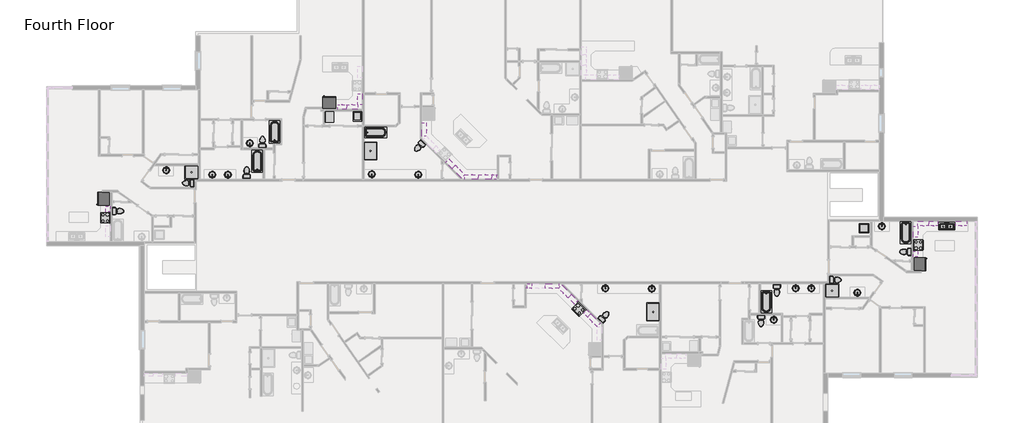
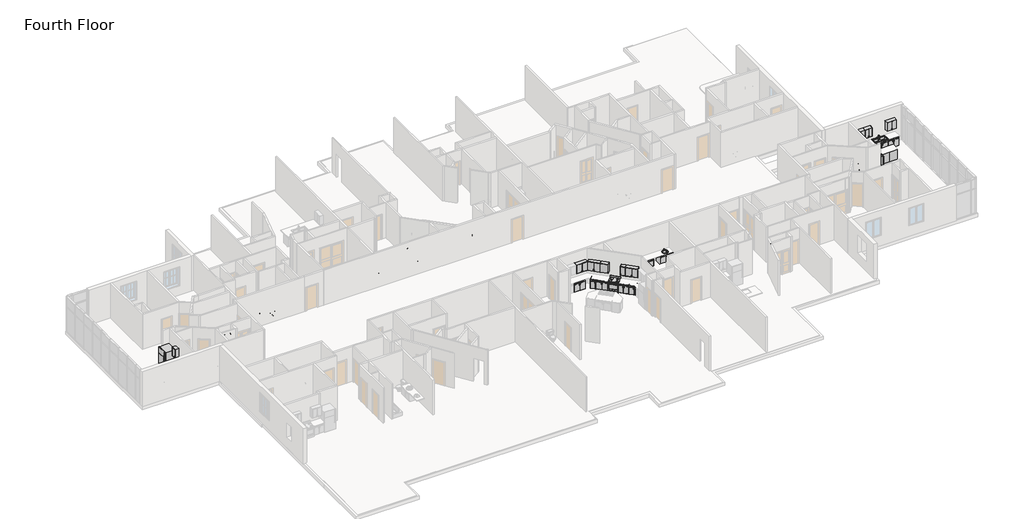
# One storey, part 15 of 17: 66 furniture elements, 33 flow terminals, 9 proxies.
"""IFC4 building model written with IfcOpenShell, lengths in millimetres."""

from ifc_helpers import new_model, si_unit, origin, place, context, project, spatial, transform, mapped, element, save
from components import proxy_6b4a07a9, proxy_fbb4c072, proxy_9109806d, proxy_718fa39f, proxy_f3e01b1d, flow_terminal_54cced83, flow_terminal_5dba0d75, flow_terminal_a53be723, flow_terminal_d49f872f, toilet_domestic_3d_toilet_domestic_3d_f7549cf7, toilet_domestic_3d_toilet_domestic_3d_183bbd19, toilet_domestic_3d_toilet_domestic_3d_a08e12bc, toilet_domestic_3d_toilet_domestic_3d_5530cc89, tub_rectangular_3d_tub_rectangular_3d_72a4d900, tub_rectangular_3d_tub_rectangular_3d_cbc2c449, furniture_0fc2bd2a, furniture_6e8794dd, furniture_07bc9410, furniture_94ff1b7c, furniture_6a014568, furniture_338da5bd, furniture_7de88fd5, furniture_695a55eb, furniture_b6fbc004, furniture_bfd559e3, base_cabinet_filler_base_cabinet_filler_2f0b3f4e, base_cabinet_filler_base_cabinet_filler_5f1ac9d6, base_cabinet_filler_base_cabinet_filler_83579e99, furniture_de2c603d, furniture_b1f16c95, furniture_c6a3367d, upper_cabinet_filler_wall_upper_cabinet_filler_wall_ebdf5134, furniture_d9efccb3, furniture_13c6450d, furniture_a47b5ef4, furniture_b880e30f, furniture_9117db5d, furniture_b34976c1, furniture_fa9c5d5b

model = new_model("IFC4")

# Units and contexts
model_context = context("Model", 3, world=origin())
ifc_project = project(units=[si_unit("LENGTHUNIT", "METRE", prefix="MILLI")], contexts=[model_context])

# Site, building, storey
site = spatial("IfcSite", under=ifc_project)
building = spatial("IfcBuilding", under=site)
storey = spatial("IfcBuildingStorey", under=building, Name="Fourth Floor", Elevation=9144.0)

# Proxies
placement = place(None, origin())
proxy_shape = proxy_6b4a07a9(model_context)
element("IfcBuildingElementProxy", 1, Name="Dryer : 30\" x 25\" x 35\"", ObjectType="Dryer : 30\" x 25\" x 35\"", at=placement, inside=storey, context=model_context, shape_type="MappedRepresentation", body=[
    mapped(proxy_shape, transform((20016.6056012, 6188.6428501, 9144.0), x_axis=(0.0, 1.0, 0.0), y_axis=(-1.0, 0.0, 0.0), z_axis=(0.0, 0.0, 1.0))),
])
proxy_2_shape = proxy_fbb4c072(model_context)
element("IfcBuildingElementProxy", 2, Name="Range : 30\" x 26\"", ObjectType="Range : 30\" x 26\"", at=placement, inside=storey, context=model_context, shape_type="MappedRepresentation", body=[
    mapped(proxy_2_shape, transform((4220.3003923, 131.5202225, 9144.0), x_axis=(0.0, -1.0, 0.0), y_axis=(1.0, 0.0, 0.0), z_axis=(0.0, 0.0, 1.0))),
])
element("IfcBuildingElementProxy", 3, Name="Range : 30\" x 26\"", ObjectType="Range : 30\" x 26\"", at=placement, inside=storey, context=model_context, shape_type="MappedRepresentation", body=[
    mapped(proxy_2_shape, transform((36146.5032482, -6394.5854043, 9144.0), x_axis=(0.7071067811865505, -0.7071067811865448, 0.0), y_axis=(0.7071067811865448, 0.7071067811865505, 0.0), z_axis=(0.0, 0.0, 1.0))),
])
element("IfcBuildingElementProxy", 4, Name="Range : 30\" x 26\"", ObjectType="Range : 30\" x 26\"", at=placement, inside=storey, context=model_context, shape_type="MappedRepresentation", body=[
    mapped(proxy_2_shape, transform((59969.853994, -2480.7028474, 9144.0), x_axis=(0.0, 1.0, 0.0), y_axis=(-1.0, 0.0, 0.0), z_axis=(0.0, 0.0, 1.0))),
])
proxy_3_shape = proxy_9109806d(model_context)
element("IfcBuildingElementProxy", 5, Name="Refrigerator : 35\" x 32\" RH", ObjectType="Refrigerator : 35\" x 32\" RH", at=placement, inside=storey, context=model_context, shape_type="MappedRepresentation", body=[
    mapped(proxy_3_shape, transform((4425.725539, 1036.2685137, 9144.0), x_axis=(0.0, -1.0, 0.0), y_axis=(1.0, 0.0, 0.0), z_axis=(0.0, 0.0, 1.0))),
])
element("IfcBuildingElementProxy", 6, Name="Refrigerator : 35\" x 32\" RH", ObjectType="Refrigerator : 35\" x 32\" RH", at=placement, inside=storey, context=model_context, shape_type="MappedRepresentation", body=[
    mapped(proxy_3_shape, transform((19720.4542781, 7559.8584529, 9144.0), x_axis=(-1.0, 0.0, 0.0), y_axis=(0.0, -1.0, 0.0), z_axis=(0.0, 0.0, 1.0))),
])
element("IfcBuildingElementProxy", 7, Name="Refrigerator : 35\" x 32\" RH", ObjectType="Refrigerator : 35\" x 32\" RH", at=placement, inside=storey, context=model_context, shape_type="MappedRepresentation", body=[
    mapped(proxy_3_shape, transform((59764.4288473, -3385.4511385, 9144.0), x_axis=(0.0, 1.0, 0.0), y_axis=(-1.0, 0.0, 0.0), z_axis=(0.0, 0.0, 1.0))),
])
proxy_4_shape = proxy_718fa39f(model_context)
element("IfcBuildingElementProxy", 8, Name="Washer : 27\" x 25\" x 35\"", ObjectType="Washer : 27\" x 25\" x 35\"", at=placement, inside=storey, context=model_context, shape_type="MappedRepresentation", body=[
    mapped(proxy_4_shape, transform((21369.2577923, 7066.4225435, 9144.0), x_axis=(0.0, -1.0, 0.0), y_axis=(1.0, 0.0, 0.0), z_axis=(0.0, 0.0, 1.0))),
])
proxy_5_shape = proxy_f3e01b1d(model_context)
element("IfcBuildingElementProxy", 9, Name="Washer_Dryer_Combo : 24\"", ObjectType="Washer_Dryer_Combo : 24\"", at=placement, inside=storey, context=model_context, shape_type="MappedRepresentation", body=[
    mapped(proxy_5_shape, transform((56408.3907443, -949.2863988, 9144.0), x_axis=(0.0, -1.0, 0.0), y_axis=(1.0, 0.0, 0.0), z_axis=(0.0, 0.0, 1.0))),
])

# Flow terminals
flow_terminal_shape = flow_terminal_54cced83(model_context)
element("IfcFlowTerminal", 10, ObjectType="Shower Base-3D : 36\" x 36\"", at=placement, inside=storey, context=model_context, shape_type="MappedRepresentation", body=[
    mapped(flow_terminal_shape, transform((10380.0467971, 2838.6124849, 9144.0), x_axis=(0.0, 1.0, 0.0), y_axis=(-1.0, 0.0, 0.0), z_axis=(0.0, 0.0, 1.0))),
])
element("IfcFlowTerminal", 11, ObjectType="Shower Base-3D : 36\" x 36\"", at=placement, inside=storey, context=model_context, shape_type="MappedRepresentation", body=[
    mapped(flow_terminal_shape, transform((53810.1075892, -5187.7951097, 9144.0), x_axis=(0.0, -1.0, 0.0), y_axis=(1.0, 0.0, 0.0), z_axis=(0.0, 0.0, 1.0))),
])
flow_terminal_2_shape = flow_terminal_5dba0d75(model_context)
element("IfcFlowTerminal", 12, ObjectType="Shower Base-3D : 48\" x 34\"", at=placement, inside=storey, context=model_context, shape_type="MappedRepresentation", body=[
    mapped(flow_terminal_2_shape, transform((22513.3830518, 4283.4091714, 9144.0), x_axis=(0.0, -1.0, 0.0), y_axis=(1.0, 0.0, 0.0), z_axis=(0.0, 0.0, 1.0))),
])
element("IfcFlowTerminal", 13, ObjectType="Shower Base-3D : 48\" x 34\"", at=placement, inside=storey, context=model_context, shape_type="MappedRepresentation", body=[
    mapped(flow_terminal_2_shape, transform((41676.7713345, -6632.5917963, 9144.0), x_axis=(0.0, 1.0, 0.0), y_axis=(-1.0, 0.0, 0.0), z_axis=(0.0, 0.0, 1.0))),
])
flow_terminal_3_shape = flow_terminal_a53be723(model_context)
element("IfcFlowTerminal", 14, ObjectType="Sink Kitchen-Double : 42\" x 21\"", at=placement, inside=storey, context=model_context, shape_type="MappedRepresentation", body=[
    mapped(flow_terminal_3_shape, transform((61579.7647534, -809.7591569, 9144.0), x_axis=(1.0, 0.0, 0.0), y_axis=(0.0, 1.0, 0.0), z_axis=(0.0, 0.0, 1.0))),
])
flow_terminal_4_shape = flow_terminal_d49f872f(model_context)
element("IfcFlowTerminal", 15, ObjectType="Sink Vanity-Round : 19\" x 19\"", at=placement, inside=storey, context=model_context, shape_type="MappedRepresentation", body=[
    mapped(flow_terminal_4_shape, transform((14429.6552962, 4892.9733129, 9144.0), x_axis=(-1.0, 0.0, 0.0), y_axis=(0.0, -1.0, 0.0), z_axis=(0.0, 0.0, 1.0))),
])
element("IfcFlowTerminal", 16, ObjectType="Sink Vanity-Round : 19\" x 19\"", at=placement, inside=storey, context=model_context, shape_type="MappedRepresentation", body=[
    mapped(flow_terminal_4_shape, transform((8560.7111773, 2889.4483435, 9144.0), x_axis=(1.0, 0.0, 0.0), y_axis=(0.0, 1.0, 0.0), z_axis=(0.0, 0.0, 1.0))),
])
element("IfcFlowTerminal", 17, ObjectType="Sink Vanity-Round : 19\" x 19\"", at=placement, inside=storey, context=model_context, shape_type="MappedRepresentation", body=[
    mapped(flow_terminal_4_shape, transform((12946.89091, 2757.2346539, 9144.0), x_axis=(-1.0, 0.0, 0.0), y_axis=(0.0, -1.0, 0.0), z_axis=(0.0, 0.0, 1.0))),
])
element("IfcFlowTerminal", 18, ObjectType="Sink Vanity-Round : 19\" x 19\"", at=placement, inside=storey, context=model_context, shape_type="MappedRepresentation", body=[
    mapped(flow_terminal_4_shape, transform((11880.09091, 2769.0116592, 9144.0), x_axis=(-1.0, 0.0, 0.0), y_axis=(0.0, -1.0, 0.0), z_axis=(0.0, 0.0, 1.0))),
])
element("IfcFlowTerminal", 19, ObjectType="Sink Vanity-Round : 19\" x 19\"", at=placement, inside=storey, context=model_context, shape_type="MappedRepresentation", body=[
    mapped(flow_terminal_4_shape, transform((25848.431225, 2766.506956, 9144.0), x_axis=(-0.9999992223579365, 0.0012471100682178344, 0.0), y_axis=(-0.0012471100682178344, -0.9999992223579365, 0.0), z_axis=(0.0, 0.0, 1.0))),
])
element("IfcFlowTerminal", 20, ObjectType="Sink Vanity-Round : 19\" x 19\"", at=placement, inside=storey, context=model_context, shape_type="MappedRepresentation", body=[
    mapped(flow_terminal_4_shape, transform((22697.558797, 2783.0261745, 9144.0), x_axis=(-0.9999968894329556, 0.002494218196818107, 0.0), y_axis=(-0.002494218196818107, -0.9999968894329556, 0.0), z_axis=(0.0, 0.0, 1.0))),
])
element("IfcFlowTerminal", 21, ObjectType="Sink Vanity-Round : 19\" x 19\"", at=placement, inside=storey, context=model_context, shape_type="MappedRepresentation", body=[
    mapped(flow_terminal_4_shape, transform((49760.4990901, -7242.1559377, 9144.0), x_axis=(1.0, 0.0, 0.0), y_axis=(0.0, 1.0, 0.0), z_axis=(0.0, 0.0, 1.0))),
])
element("IfcFlowTerminal", 22, ObjectType="Sink Vanity-Round : 19\" x 19\"", at=placement, inside=storey, context=model_context, shape_type="MappedRepresentation", body=[
    mapped(flow_terminal_4_shape, transform((57094.1764749, -902.6278973, 9144.0), x_axis=(1.0, 0.0, 0.0), y_axis=(0.0, 1.0, 0.0), z_axis=(0.0, 0.0, 1.0))),
])
element("IfcFlowTerminal", 23, ObjectType="Sink Vanity-Round : 19\" x 19\"", at=placement, inside=storey, context=model_context, shape_type="MappedRepresentation", body=[
    mapped(flow_terminal_4_shape, transform((55629.443209, -5238.6309683, 9144.0), x_axis=(-1.0, 0.0, 0.0), y_axis=(0.0, -1.0, 0.0), z_axis=(0.0, 0.0, 1.0))),
])
element("IfcFlowTerminal", 24, ObjectType="Sink Vanity-Round : 19\" x 19\"", at=placement, inside=storey, context=model_context, shape_type="MappedRepresentation", body=[
    mapped(flow_terminal_4_shape, transform((51243.2634763, -5106.4172787, 9144.0), x_axis=(1.0, 0.0, 0.0), y_axis=(0.0, 1.0, 0.0), z_axis=(0.0, 0.0, 1.0))),
])
element("IfcFlowTerminal", 25, ObjectType="Sink Vanity-Round : 19\" x 19\"", at=placement, inside=storey, context=model_context, shape_type="MappedRepresentation", body=[
    mapped(flow_terminal_4_shape, transform((52310.0634763, -5118.194284, 9144.0), x_axis=(1.0, 0.0, 0.0), y_axis=(0.0, 1.0, 0.0), z_axis=(0.0, 0.0, 1.0))),
])
element("IfcFlowTerminal", 26, ObjectType="Sink Vanity-Round : 19\" x 19\"", at=placement, inside=storey, context=model_context, shape_type="MappedRepresentation", body=[
    mapped(flow_terminal_4_shape, transform((38341.7231613, -5115.6895809, 9144.0), x_axis=(0.9999992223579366, -0.0012471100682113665, 0.0), y_axis=(0.0012471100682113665, 0.9999992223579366, 0.0), z_axis=(0.0, 0.0, 1.0))),
])
element("IfcFlowTerminal", 27, ObjectType="Sink Vanity-Round : 19\" x 19\"", at=placement, inside=storey, context=model_context, shape_type="MappedRepresentation", body=[
    mapped(flow_terminal_4_shape, transform((41492.5955893, -5132.2087994, 9144.0), x_axis=(0.9999968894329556, -0.0024942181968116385, 0.0), y_axis=(0.0024942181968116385, 0.9999968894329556, 0.0), z_axis=(0.0, 0.0, 1.0))),
])
toilet_domestic_3d_toilet_domestic_3d_shape = toilet_domestic_3d_toilet_domestic_3d_f7549cf7(model_context)
toilet_domestic_3d_toilet_domestic_3d_2_shape = toilet_domestic_3d_toilet_domestic_3d_183bbd19(model_context)
element("IfcFlowTerminal", 28, ObjectType="Toilet-Domestic-3D : Toilet-Domestic-3D", at=placement, inside=storey, context=model_context, shape_type="MappedRepresentation", body=[
    mapped(toilet_domestic_3d_toilet_domestic_3d_shape, transform((14122.4, 2916.9069921, 9144.0), x_axis=(-1.0, 0.0, 0.0), y_axis=(0.0, -1.0, 0.0), z_axis=(0.0, 0.0, 1.0))),
    mapped(toilet_domestic_3d_toilet_domestic_3d_2_shape, transform((14122.4, 2916.9069921, 9144.0), x_axis=(-1.0, 0.0, 0.0), y_axis=(0.0, -1.0, 0.0), z_axis=(0.0, 0.0, 1.0))),
])
element("IfcFlowTerminal", 29, ObjectType="Toilet-Domestic-3D : Toilet-Domestic-3D", at=placement, inside=storey, context=model_context, shape_type="MappedRepresentation", body=[
    mapped(toilet_domestic_3d_toilet_domestic_3d_shape, transform((15189.2, 4981.3051988, 9144.0), x_axis=(-1.0, 0.0, 0.0), y_axis=(0.0, -1.0, 0.0), z_axis=(0.0, 0.0, 1.0))),
    mapped(toilet_domestic_3d_toilet_domestic_3d_2_shape, transform((15189.2, 4981.3051988, 9144.0), x_axis=(-1.0, 0.0, 0.0), y_axis=(0.0, -1.0, 0.0), z_axis=(0.0, 0.0, 1.0))),
])
element("IfcFlowTerminal", 30, ObjectType="Toilet-Domestic-3D : Toilet-Domestic-3D", at=placement, inside=storey, context=model_context, shape_type="MappedRepresentation", body=[
    mapped(toilet_domestic_3d_toilet_domestic_3d_shape, transform((5489.6964197, 205.0443161, 9144.0), x_axis=(0.0, 1.0, 0.0), y_axis=(-1.0, 0.0, 0.0), z_axis=(0.0, 0.0, 1.0))),
    mapped(toilet_domestic_3d_toilet_domestic_3d_2_shape, transform((5489.6964197, 205.0443161, 9144.0), x_axis=(0.0, 1.0, 0.0), y_axis=(-1.0, 0.0, 0.0), z_axis=(0.0, 0.0, 1.0))),
])
element("IfcFlowTerminal", 31, ObjectType="Toilet-Domestic-3D : Toilet-Domestic-3D", at=placement, inside=storey, context=model_context, shape_type="MappedRepresentation", body=[
    mapped(toilet_domestic_3d_toilet_domestic_3d_shape, transform((50067.7543863, -5266.0896169, 9144.0), x_axis=(1.0, 0.0, 0.0), y_axis=(0.0, 1.0, 0.0), z_axis=(0.0, 0.0, 1.0))),
    mapped(toilet_domestic_3d_toilet_domestic_3d_2_shape, transform((50067.7543863, -5266.0896169, 9144.0), x_axis=(1.0, 0.0, 0.0), y_axis=(0.0, 1.0, 0.0), z_axis=(0.0, 0.0, 1.0))),
])
element("IfcFlowTerminal", 32, ObjectType="Toilet-Domestic-3D : Toilet-Domestic-3D", at=placement, inside=storey, context=model_context, shape_type="MappedRepresentation", body=[
    mapped(toilet_domestic_3d_toilet_domestic_3d_shape, transform((49000.9543863, -7330.4878236, 9144.0), x_axis=(1.0, 0.0, 0.0), y_axis=(0.0, 1.0, 0.0), z_axis=(0.0, 0.0, 1.0))),
    mapped(toilet_domestic_3d_toilet_domestic_3d_2_shape, transform((49000.9543863, -7330.4878236, 9144.0), x_axis=(1.0, 0.0, 0.0), y_axis=(0.0, 1.0, 0.0), z_axis=(0.0, 0.0, 1.0))),
])
element("IfcFlowTerminal", 33, ObjectType="Toilet-Domestic-3D : Toilet-Domestic-3D", at=placement, inside=storey, context=model_context, shape_type="MappedRepresentation", body=[
    mapped(toilet_domestic_3d_toilet_domestic_3d_shape, transform((58700.4579666, -2554.2269409, 9144.0), x_axis=(0.0, -1.0, 0.0), y_axis=(1.0, 0.0, 0.0), z_axis=(0.0, 0.0, 1.0))),
    mapped(toilet_domestic_3d_toilet_domestic_3d_2_shape, transform((58700.4579666, -2554.2269409, 9144.0), x_axis=(0.0, -1.0, 0.0), y_axis=(1.0, 0.0, 0.0), z_axis=(0.0, 0.0, 1.0))),
])
toilet_domestic_3d_toilet_domestic_3d_3_shape = toilet_domestic_3d_toilet_domestic_3d_a08e12bc(model_context)
toilet_domestic_3d_toilet_domestic_3d_4_shape = toilet_domestic_3d_toilet_domestic_3d_5530cc89(model_context)
element("IfcFlowTerminal", 34, ObjectType="Toilet-Domestic-3D : Toilet-Domestic-3D", at=placement, inside=storey, context=model_context, shape_type="MappedRepresentation", body=[
    mapped(toilet_domestic_3d_toilet_domestic_3d_3_shape, transform((25747.809259, 4514.7153485, 9144.0), x_axis=(-0.7196179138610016, 0.6943702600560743, 0.0), y_axis=(-0.6943702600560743, -0.7196179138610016, 0.0), z_axis=(0.0, 0.0, 1.0))),
    mapped(toilet_domestic_3d_toilet_domestic_3d_4_shape, transform((25747.809259, 4514.7153485, 9144.0), x_axis=(-0.7196179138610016, 0.6943702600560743, 0.0), y_axis=(-0.6943702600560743, -0.7196179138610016, 0.0), z_axis=(0.0, 0.0, 1.0))),
])
element("IfcFlowTerminal", 35, ObjectType="Toilet-Domestic-3D : Toilet-Domestic-3D", at=placement, inside=storey, context=model_context, shape_type="MappedRepresentation", body=[
    mapped(toilet_domestic_3d_toilet_domestic_3d_3_shape, transform((10058.4, 2108.2, 9144.0), x_axis=(-0.0047058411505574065, 0.9999889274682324, 0.0), y_axis=(-0.9999889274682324, -0.0047058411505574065, 0.0), z_axis=(0.0, 0.0, 1.0))),
    mapped(toilet_domestic_3d_toilet_domestic_3d_4_shape, transform((10058.4, 2108.2, 9144.0), x_axis=(-0.0047058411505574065, 0.9999889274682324, 0.0), y_axis=(-0.9999889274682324, -0.0047058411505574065, 0.0), z_axis=(0.0, 0.0, 1.0))),
])
element("IfcFlowTerminal", 36, ObjectType="Toilet-Domestic-3D : Toilet-Domestic-3D", at=placement, inside=storey, context=model_context, shape_type="MappedRepresentation", body=[
    mapped(toilet_domestic_3d_toilet_domestic_3d_3_shape, transform((38442.3451273, -6863.8979733, 9144.0), x_axis=(0.719617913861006, -0.6943702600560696, 0.0), y_axis=(0.6943702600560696, 0.719617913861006, 0.0), z_axis=(0.0, 0.0, 1.0))),
    mapped(toilet_domestic_3d_toilet_domestic_3d_4_shape, transform((38442.3451273, -6863.8979733, 9144.0), x_axis=(0.719617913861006, -0.6943702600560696, 0.0), y_axis=(0.6943702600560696, 0.719617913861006, 0.0), z_axis=(0.0, 0.0, 1.0))),
])
element("IfcFlowTerminal", 37, ObjectType="Toilet-Domestic-3D : Toilet-Domestic-3D", at=placement, inside=storey, context=model_context, shape_type="MappedRepresentation", body=[
    mapped(toilet_domestic_3d_toilet_domestic_3d_3_shape, transform((54131.7543863, -4457.3826248, 9144.0), x_axis=(0.004705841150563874, -0.9999889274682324, 0.0), y_axis=(0.9999889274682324, 0.004705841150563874, 0.0), z_axis=(0.0, 0.0, 1.0))),
    mapped(toilet_domestic_3d_toilet_domestic_3d_4_shape, transform((54131.7543863, -4457.3826248, 9144.0), x_axis=(0.004705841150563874, -0.9999889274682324, 0.0), y_axis=(0.9999889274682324, 0.004705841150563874, 0.0), z_axis=(0.0, 0.0, 1.0))),
])
tub_rectangular_3d_tub_rectangular_3d_shape = tub_rectangular_3d_tub_rectangular_3d_72a4d900(model_context)
element("IfcFlowTerminal", 38, ObjectType="Tub-Rectangular-3D : Tub-Rectangular-3D", at=placement, inside=storey, context=model_context, shape_type="MappedRepresentation", body=[
    mapped(tub_rectangular_3d_tub_rectangular_3d_shape, transform((15278.2993195, 3946.2121401, 9144.0), x_axis=(0.0, 1.0, 0.0), y_axis=(-1.0, 0.0, 0.0), z_axis=(0.0, 0.0, 1.0))),
])
element("IfcFlowTerminal", 39, ObjectType="Tub-Rectangular-3D : Tub-Rectangular-3D", at=placement, inside=storey, context=model_context, shape_type="MappedRepresentation", body=[
    mapped(tub_rectangular_3d_tub_rectangular_3d_shape, transform((16456.2083594, 5935.4931457, 9144.0), x_axis=(0.0, 1.0, 0.0), y_axis=(-1.0, 0.0, 0.0), z_axis=(0.0, 0.0, 1.0))),
])
element("IfcFlowTerminal", 40, ObjectType="Tub-Rectangular-3D : Tub-Rectangular-3D", at=placement, inside=storey, context=model_context, shape_type="MappedRepresentation", body=[
    mapped(tub_rectangular_3d_tub_rectangular_3d_shape, transform((48911.8550668, -6295.394765, 9144.0), x_axis=(0.0, -1.0, 0.0), y_axis=(1.0, 0.0, 0.0), z_axis=(0.0, 0.0, 1.0))),
])
tub_rectangular_3d_tub_rectangular_3d_2_shape = tub_rectangular_3d_tub_rectangular_3d_cbc2c449(model_context)
element("IfcFlowTerminal", 41, ObjectType="Tub-Rectangular-3D : Tub-Rectangular-3D", at=placement, inside=storey, context=model_context, shape_type="MappedRepresentation", body=[
    mapped(tub_rectangular_3d_tub_rectangular_3d_2_shape, transform((23209.8603258, 5986.0380642, 9144.0), x_axis=(1.0, 0.0, 0.0), y_axis=(0.0, 1.0, 0.0), z_axis=(0.0, 0.0, 1.0))),
])
element("IfcFlowTerminal", 42, ObjectType="Tub-Rectangular-3D : Tub-Rectangular-3D", at=placement, inside=storey, context=model_context, shape_type="MappedRepresentation", body=[
    mapped(tub_rectangular_3d_tub_rectangular_3d_2_shape, transform((59252.303994, -1606.8667245, 9144.0), x_axis=(0.0, -1.0, 0.0), y_axis=(1.0, 0.0, 0.0), z_axis=(0.0, 0.0, 1.0))),
])

# Furniture
furniture_shape = furniture_0fc2bd2a(model_context)
element("IfcFurniture", 43, ObjectType="Base Cabinet-Single Door & Drawer : 15\"'", at=placement, inside=storey, context=model_context, shape_type="MappedRepresentation", body=[
    mapped(furniture_shape, transform((28365.0552156, 2777.7431755, 9144.0), x_axis=(-0.7071067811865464, 0.7071067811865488, 0.0), y_axis=(-0.7071067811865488, -0.7071067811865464, 0.0), z_axis=(0.0, 0.0, 1.0))),
])
element("IfcFurniture", 44, ObjectType="Base Cabinet-Single Door & Drawer : 15\"'", at=placement, inside=storey, context=model_context, shape_type="MappedRepresentation", body=[
    mapped(furniture_shape, transform((35825.0991707, -5126.9258003, 9144.0), x_axis=(0.7071067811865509, -0.7071067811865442, 0.0), y_axis=(0.7071067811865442, 0.7071067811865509, 0.0), z_axis=(0.0, 0.0, 1.0))),
])
element("IfcFurniture", 45, ObjectType="Base Cabinet-Single Door & Drawer : 15\"'", at=placement, inside=storey, context=model_context, shape_type="MappedRepresentation", body=[
    mapped(furniture_shape, transform((37810.919328, -7127.7174378, 9144.0), x_axis=(0.7056789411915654, -0.7085317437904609, 0.0), y_axis=(0.7085317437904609, 0.7056789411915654, 0.0), z_axis=(0.0, 0.0, 1.0))),
])
furniture_2_shape = furniture_6e8794dd(model_context)
element("IfcFurniture", 46, ObjectType="Base Cabinet-Single Door & Drawer : 12\"", at=placement, inside=storey, context=model_context, shape_type="MappedRepresentation", body=[
    mapped(furniture_2_shape, transform((59309.453994, -1583.9741037, 9144.0), x_axis=(0.0, 1.0, 0.0), y_axis=(-1.0, 0.0, 0.0), z_axis=(0.0, 0.0, 1.0))),
])
furniture_3_shape = furniture_07bc9410(model_context)
element("IfcFurniture", 47, ObjectType="Base Cabinet-Single Door & Drawer : 18\"", at=placement, inside=storey, context=model_context, shape_type="MappedRepresentation", body=[
    mapped(furniture_3_shape, transform((4880.7003923, 341.3825176, 9144.0), x_axis=(0.0, 1.0, 0.0), y_axis=(-1.0, 0.0, 0.0), z_axis=(0.0, 0.0, 1.0))),
])
element("IfcFurniture", 48, ObjectType="Base Cabinet-Single Door & Drawer : 18\"", at=placement, inside=storey, context=model_context, shape_type="MappedRepresentation", body=[
    mapped(furniture_3_shape, transform((59309.453994, -2690.5651424, 9144.0), x_axis=(0.0, -1.0, 0.0), y_axis=(1.0, 0.0, 0.0), z_axis=(0.0, 0.0, 1.0))),
])
furniture_4_shape = furniture_94ff1b7c(model_context)
element("IfcFurniture", 49, ObjectType="Base Cabinet-Single Door & Drawer : 24\"", at=placement, inside=storey, context=model_context, shape_type="MappedRepresentation", body=[
    mapped(furniture_4_shape, transform((3057.9741763, 98.2194727, 9144.0), x_axis=(-1.0, 0.0, 0.0), y_axis=(0.0, -1.0, 0.0), z_axis=(0.0, 0.0, 1.0))),
])
element("IfcFurniture", 50, ObjectType="Base Cabinet-Single Door & Drawer : 24\"", at=placement, inside=storey, context=model_context, shape_type="MappedRepresentation", body=[
    mapped(furniture_4_shape, transform((61132.18021, -2447.4020975, 9144.0), x_axis=(1.0, 0.0, 0.0), y_axis=(0.0, 1.0, 0.0), z_axis=(0.0, 0.0, 1.0))),
])
furniture_5_shape = furniture_6a014568(model_context)
element("IfcFurniture", 51, ObjectType="Base Cabinet-Single Door & Drawer : 24\"", at=placement, inside=storey, context=model_context, shape_type="MappedRepresentation", body=[
    mapped(furniture_5_shape, transform((2410.8987665, 98.2194727, 9144.0), x_axis=(1.0, 0.0, 0.0), y_axis=(0.0, 1.0, 0.0), z_axis=(0.0, 0.0, 1.0))),
])
element("IfcFurniture", 52, ObjectType="Base Cabinet-Single Door & Drawer : 24\"", at=placement, inside=storey, context=model_context, shape_type="MappedRepresentation", body=[
    mapped(furniture_5_shape, transform((61779.2556198, -2447.4020975, 9144.0), x_axis=(-1.0, 0.0, 0.0), y_axis=(0.0, -1.0, 0.0), z_axis=(0.0, 0.0, 1.0))),
])
furniture_6_shape = furniture_338da5bd(model_context)
element("IfcFurniture", 53, ObjectType="Base Cabinet-Double Door & 2 Drawer : 30\"", at=placement, inside=storey, context=model_context, shape_type="MappedRepresentation", body=[
    mapped(furniture_6_shape, transform((26782.2215797, 4373.9191641, 9144.0), x_axis=(-0.7056789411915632, 0.7085317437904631, 0.0), y_axis=(-0.7085317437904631, -0.7056789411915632, 0.0), z_axis=(0.0, 0.0, 1.0))),
])
element("IfcFurniture", 54, ObjectType="Base Cabinet-Double Door & 2 Drawer : 30\"", at=placement, inside=storey, context=model_context, shape_type="MappedRepresentation", body=[
    mapped(furniture_6_shape, transform((37407.9328066, -6723.1017889, 9144.0), x_axis=(0.7056789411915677, -0.7085317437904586, 0.0), y_axis=(0.7085317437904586, 0.7056789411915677, 0.0), z_axis=(0.0, 0.0, 1.0))),
])
furniture_7_shape = furniture_7de88fd5(model_context)
element("IfcFurniture", 55, ObjectType="Base Cabinet-Double Door & 2 Drawer : 33\"", at=placement, inside=storey, context=model_context, shape_type="MappedRepresentation", body=[
    mapped(furniture_7_shape, transform((20651.145062, 7103.205075, 9144.0), x_axis=(-1.0, 0.0, 0.0), y_axis=(0.0, -1.0, 0.0), z_axis=(0.0, 0.0, 1.0))),
])
furniture_8_shape = furniture_695a55eb(model_context)
element("IfcFurniture", 56, ObjectType="Base Cabinet-Double Door & 2 Drawer : 36\"", at=placement, inside=storey, context=model_context, shape_type="MappedRepresentation", body=[
    mapped(furniture_8_shape, transform((62528.5916989, -502.6137558, 9144.0), x_axis=(-1.0, 0.0, 0.0), y_axis=(0.0, -1.0, 0.0), z_axis=(0.0, 0.0, 1.0))),
])
element("IfcFurniture", 57, ObjectType="Base Cabinet-Double Door & 2 Drawer : 36\"", at=placement, inside=storey, context=model_context, shape_type="MappedRepresentation", body=[
    mapped(furniture_8_shape, transform((61614.1916989, -502.6137558, 9144.0), x_axis=(-1.0, 0.0, 0.0), y_axis=(0.0, -1.0, 0.0), z_axis=(0.0, 0.0, 1.0))),
])
element("IfcFurniture", 58, ObjectType="Base Cabinet-Double Door & 2 Drawer : 36\"", at=placement, inside=storey, context=model_context, shape_type="MappedRepresentation", body=[
    mapped(furniture_8_shape, transform((60699.7916989, -502.6137558, 9144.0), x_axis=(-1.0, 0.0, 0.0), y_axis=(0.0, -1.0, 0.0), z_axis=(0.0, 0.0, 1.0))),
])
furniture_9_shape = furniture_b6fbc004(model_context)
element("IfcFurniture", 59, ObjectType="Base Cabinet-Double Door & 2 Drawer : 36\"", at=placement, inside=storey, context=model_context, shape_type="MappedRepresentation", body=[
    mapped(furniture_9_shape, transform((30655.8953946, 2359.3591714, 9144.0), x_axis=(-1.0, 0.0, 0.0), y_axis=(0.0, -1.0, 0.0), z_axis=(0.0, 0.0, 1.0))),
])
element("IfcFurniture", 60, ObjectType="Base Cabinet-Double Door & 2 Drawer : 36\"", at=placement, inside=storey, context=model_context, shape_type="MappedRepresentation", body=[
    mapped(furniture_9_shape, transform((29741.4953946, 2359.3591714, 9144.0), x_axis=(-1.0, 0.0, 0.0), y_axis=(0.0, -1.0, 0.0), z_axis=(0.0, 0.0, 1.0))),
])
element("IfcFurniture", 61, ObjectType="Base Cabinet-Double Door & 2 Drawer : 36\"", at=placement, inside=storey, context=model_context, shape_type="MappedRepresentation", body=[
    mapped(furniture_9_shape, transform((27907.0621534, 3235.7362377, 9144.0), x_axis=(-0.7071067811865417, 0.7071067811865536, 0.0), y_axis=(-0.7071067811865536, -0.7071067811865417, 0.0), z_axis=(0.0, 0.0, 1.0))),
])
element("IfcFurniture", 62, ObjectType="Base Cabinet-Double Door & 2 Drawer : 36\"", at=placement, inside=storey, context=model_context, shape_type="MappedRepresentation", body=[
    mapped(furniture_9_shape, transform((25998.6143708, 5897.3510915, 9144.0), x_axis=(0.0, 1.0, 0.0), y_axis=(-1.0, 0.0, 0.0), z_axis=(0.0, 0.0, 1.0))),
])
element("IfcFurniture", 63, ObjectType="Base Cabinet-Double Door & 2 Drawer : 36\"", at=placement, inside=storey, context=model_context, shape_type="MappedRepresentation", body=[
    mapped(furniture_9_shape, transform((34448.6589917, -4708.5417963, 9144.0), x_axis=(1.0, 0.0, 0.0), y_axis=(0.0, 1.0, 0.0), z_axis=(0.0, 0.0, 1.0))),
])
element("IfcFurniture", 64, ObjectType="Base Cabinet-Double Door & 2 Drawer : 36\"", at=placement, inside=storey, context=model_context, shape_type="MappedRepresentation", body=[
    mapped(furniture_9_shape, transform((36283.0922328, -5584.9188625, 9144.0), x_axis=(0.7071067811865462, -0.707106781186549, 0.0), y_axis=(0.707106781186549, 0.7071067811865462, 0.0), z_axis=(0.0, 0.0, 1.0))),
])
furniture_10_shape = furniture_bfd559e3(model_context)
element("IfcFurniture", 65, ObjectType="Base Cabinet-Corner Unit-Angled : 36\"", at=placement, inside=storey, context=model_context, shape_type="MappedRepresentation", body=[
    mapped(furniture_10_shape, transform((21965.9073571, 7629.9427799, 9144.0), x_axis=(0.0, -1.0, 0.0), y_axis=(1.0, 0.0, 0.0), z_axis=(0.0, 0.0, 1.0))),
])
element("IfcFurniture", 66, ObjectType="Base Cabinet-Corner Unit-Angled : 36\"", at=placement, inside=storey, context=model_context, shape_type="MappedRepresentation", body=[
    mapped(furniture_10_shape, transform((59309.453994, -1029.3514607, 9144.0), x_axis=(0.0, 1.0, 0.0), y_axis=(-1.0, 0.0, 0.0), z_axis=(0.0, 0.0, 1.0))),
])
base_cabinet_filler_base_cabinet_filler_shape = base_cabinet_filler_base_cabinet_filler_2f0b3f4e(model_context)
element("IfcFurniture", 67, ObjectType="Base Cabinet-Filler : Base Cabinet-Filler", at=placement, inside=storey, context=model_context, shape_type="MappedRepresentation", body=[
    mapped(base_cabinet_filler_base_cabinet_filler_shape, transform((25998.6143708, 5415.9043221, 9144.0), x_axis=(0.0, 1.0, 0.0), y_axis=(-1.0, 0.0, 0.0), z_axis=(0.0, 0.0, 1.0))),
])
element("IfcFurniture", 68, ObjectType="Base Cabinet-Filler : Base Cabinet-Filler", at=placement, inside=storey, context=model_context, shape_type="MappedRepresentation", body=[
    mapped(base_cabinet_filler_base_cabinet_filler_shape, transform((38191.5400155, -7765.086947, 9144.0), x_axis=(0.0, -1.0, 0.0), y_axis=(1.0, 0.0, 0.0), z_axis=(0.0, 0.0, 1.0))),
])
base_cabinet_filler_base_cabinet_filler_2_shape = base_cabinet_filler_base_cabinet_filler_5f1ac9d6(model_context)
element("IfcFurniture", 69, ObjectType="Base Cabinet-Filler : Base Cabinet-Filler", at=placement, inside=storey, context=model_context, shape_type="MappedRepresentation", body=[
    mapped(base_cabinet_filler_base_cabinet_filler_2_shape, transform((37971.6753186, -7289.0685883, 9144.0), x_axis=(0.7071067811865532, -0.7071067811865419, 0.0), y_axis=(0.7071067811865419, 0.7071067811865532, 0.0), z_axis=(0.0, 0.0, 1.0))),
])
base_cabinet_filler_base_cabinet_filler_3_shape = base_cabinet_filler_base_cabinet_filler_83579e99(model_context)
element("IfcFurniture", 70, ObjectType="Base Cabinet-Filler : Base Cabinet-Filler", at=placement, inside=storey, context=model_context, shape_type="MappedRepresentation", body=[
    mapped(base_cabinet_filler_base_cabinet_filler_3_shape, transform((20204.6935225, 7103.205075, 9144.0), x_axis=(-1.0, 0.0, 0.0), y_axis=(0.0, -1.0, 0.0), z_axis=(0.0, 0.0, 1.0))),
])
furniture_11_shape = furniture_de2c603d(model_context)
element("IfcFurniture", 71, ObjectType="Upper Cabinet-Double Door-Wall : 24\"", at=placement, inside=storey, context=model_context, shape_type="MappedRepresentation", body=[
    mapped(furniture_11_shape, transform((20564.5361943, 7046.055075, 9144.0), x_axis=(1.0, 0.0, 0.0), y_axis=(0.0, 1.0, 0.0), z_axis=(0.0, 0.0, 1.0))),
])
element("IfcFurniture", 72, ObjectType="Upper Cabinet-Double Door-Wall : 24\"", at=placement, inside=storey, context=model_context, shape_type="MappedRepresentation", body=[
    mapped(furniture_11_shape, transform((60710.8251568, -428.0012558, 9144.0), x_axis=(-1.0, 0.0, 0.0), y_axis=(0.0, -1.0, 0.0), z_axis=(0.0, 0.0, 1.0))),
])
furniture_12_shape = furniture_b1f16c95(model_context)
element("IfcFurniture", 73, ObjectType="Upper Cabinet-Double Door-Wall : 30\"", at=placement, inside=storey, context=model_context, shape_type="MappedRepresentation", body=[
    mapped(furniture_12_shape, transform((21250.3361943, 7046.055075, 9144.0), x_axis=(1.0, 0.0, 0.0), y_axis=(0.0, 1.0, 0.0), z_axis=(0.0, 0.0, 1.0))),
])
element("IfcFurniture", 74, ObjectType="Upper Cabinet-Double Door-Wall : 30\"", at=placement, inside=storey, context=model_context, shape_type="MappedRepresentation", body=[
    mapped(furniture_12_shape, transform((22023.0573571, 7759.2339122, 9144.0), x_axis=(0.0, 1.0, 0.0), y_axis=(-1.0, 0.0, 0.0), z_axis=(0.0, 0.0, 1.0))),
])
element("IfcFurniture", 75, ObjectType="Upper Cabinet-Double Door-Wall : 30\"", at=placement, inside=storey, context=model_context, shape_type="MappedRepresentation", body=[
    mapped(furniture_12_shape, transform((60025.0251568, -428.0012558, 9144.0), x_axis=(-1.0, 0.0, 0.0), y_axis=(0.0, -1.0, 0.0), z_axis=(0.0, 0.0, 1.0))),
])
element("IfcFurniture", 76, ObjectType="Upper Cabinet-Double Door-Wall : 30\"", at=placement, inside=storey, context=model_context, shape_type="MappedRepresentation", body=[
    mapped(furniture_12_shape, transform((59252.303994, -1158.642593, 9144.0), x_axis=(0.0, -1.0, 0.0), y_axis=(1.0, 0.0, 0.0), z_axis=(0.0, 0.0, 1.0))),
])
element("IfcFurniture", 77, ObjectType="Upper Cabinet-Double Door-Wall : 30\"", at=placement, inside=storey, context=model_context, shape_type="MappedRepresentation", body=[
    mapped(furniture_12_shape, transform((62603.3716935, -428.0012558, 9144.0), x_axis=(-1.0, 0.0, 0.0), y_axis=(0.0, -1.0, 0.0), z_axis=(0.0, 0.0, 1.0))),
])
furniture_13_shape = furniture_c6a3367d(model_context)
element("IfcFurniture", 78, ObjectType="Upper Cabinet-Double Door-Wall : 36\"", at=placement, inside=storey, context=model_context, shape_type="MappedRepresentation", body=[
    mapped(furniture_13_shape, transform((29337.1203507, 2302.2091714, 9144.0), x_axis=(1.0, 0.0, 0.0), y_axis=(0.0, 1.0, 0.0), z_axis=(0.0, 0.0, 1.0))),
])
element("IfcFurniture", 79, ObjectType="Upper Cabinet-Double Door-Wall : 36\"", at=placement, inside=storey, context=model_context, shape_type="MappedRepresentation", body=[
    mapped(furniture_13_shape, transform((28309.6002934, 2752.3757927, 9144.0), x_axis=(0.707106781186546, -0.7071067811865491, 0.0), y_axis=(0.7071067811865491, 0.707106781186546, 0.0), z_axis=(0.0, 0.0, 1.0))),
])
element("IfcFurniture", 80, ObjectType="Upper Cabinet-Double Door-Wall : 36\"", at=placement, inside=storey, context=model_context, shape_type="MappedRepresentation", body=[
    mapped(furniture_13_shape, transform((25936.35388, 5762.5179677, 9144.0), x_axis=(0.0, -1.0, 0.0), y_axis=(1.0, 0.0, 0.0), z_axis=(0.0, 0.0, 1.0))),
])
element("IfcFurniture", 81, ObjectType="Upper Cabinet-Double Door-Wall : 36\"", at=placement, inside=storey, context=model_context, shape_type="MappedRepresentation", body=[
    mapped(furniture_13_shape, transform((30251.5203507, 2302.2091714, 9144.0), x_axis=(1.0, 0.0, 0.0), y_axis=(0.0, 1.0, 0.0), z_axis=(0.0, 0.0, 1.0))),
])
element("IfcFurniture", 82, ObjectType="Upper Cabinet-Double Door-Wall : 36\"", at=placement, inside=storey, context=model_context, shape_type="MappedRepresentation", body=[
    mapped(furniture_13_shape, transform((34853.0340356, -4651.3917963, 9144.0), x_axis=(-1.0, 0.0, 0.0), y_axis=(0.0, -1.0, 0.0), z_axis=(0.0, 0.0, 1.0))),
])
element("IfcFurniture", 83, ObjectType="Upper Cabinet-Double Door-Wall : 36\"", at=placement, inside=storey, context=model_context, shape_type="MappedRepresentation", body=[
    mapped(furniture_13_shape, transform((35880.5540929, -5101.5584175, 9144.0), x_axis=(-0.7071067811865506, 0.7071067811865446, 0.0), y_axis=(-0.7071067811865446, -0.7071067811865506, 0.0), z_axis=(0.0, 0.0, 1.0))),
])
element("IfcFurniture", 84, ObjectType="Upper Cabinet-Double Door-Wall : 36\"", at=placement, inside=storey, context=model_context, shape_type="MappedRepresentation", body=[
    mapped(furniture_13_shape, transform((37843.3737793, -7064.3781039, 9144.0), x_axis=(-0.7071067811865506, 0.7071067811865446, 0.0), y_axis=(-0.7071067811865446, -0.7071067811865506, 0.0), z_axis=(0.0, 0.0, 1.0))),
])
upper_cabinet_filler_wall_upper_cabinet_filler_wall_shape = upper_cabinet_filler_wall_upper_cabinet_filler_wall_ebdf5134(model_context)
element("IfcFurniture", 85, ObjectType="Upper Cabinet-Filler-Wall : Upper Cabinet-Filler-Wall", at=placement, inside=storey, context=model_context, shape_type="MappedRepresentation", body=[
    mapped(upper_cabinet_filler_wall_upper_cabinet_filler_wall_shape, transform((31102.3465021, 2302.2091714, 9144.0), x_axis=(-1.0, 0.0, 0.0), y_axis=(0.0, -1.0, 0.0), z_axis=(0.0, 0.0, 1.0))),
])
element("IfcFurniture", 86, ObjectType="Upper Cabinet-Filler-Wall : Upper Cabinet-Filler-Wall", at=placement, inside=storey, context=model_context, shape_type="MappedRepresentation", body=[
    mapped(upper_cabinet_filler_wall_upper_cabinet_filler_wall_shape, transform((33087.8078842, -4651.3917963, 9144.0), x_axis=(1.0, 0.0, 0.0), y_axis=(0.0, 1.0, 0.0), z_axis=(0.0, 0.0, 1.0))),
])
furniture_14_shape = furniture_d9efccb3(model_context)
element("IfcFurniture", 87, ObjectType="Upper Cabinet-Single Door-Wall : 12\"", at=placement, inside=storey, context=model_context, shape_type="MappedRepresentation", body=[
    mapped(furniture_14_shape, transform((30861.1203507, 2302.2091714, 9144.0), x_axis=(1.0, 0.0, 0.0), y_axis=(0.0, 1.0, 0.0), z_axis=(0.0, 0.0, 1.0))),
])
element("IfcFurniture", 88, ObjectType="Upper Cabinet-Single Door-Wall : 12\"", at=placement, inside=storey, context=model_context, shape_type="MappedRepresentation", body=[
    mapped(furniture_14_shape, transform((33329.0340356, -4651.3917963, 9144.0), x_axis=(-1.0, 0.0, 0.0), y_axis=(0.0, -1.0, 0.0), z_axis=(0.0, 0.0, 1.0))),
])
furniture_15_shape = furniture_13c6450d(model_context)
element("IfcFurniture", 89, ObjectType="Upper Cabinet-Single Door-Wall : 15\"", at=placement, inside=storey, context=model_context, shape_type="MappedRepresentation", body=[
    mapped(furniture_15_shape, transform((4937.8503923, 327.0473509, 9144.0), x_axis=(0.0, 1.0, 0.0), y_axis=(-1.0, 0.0, 0.0), z_axis=(0.0, 0.0, 1.0))),
])
element("IfcFurniture", 90, ObjectType="Upper Cabinet-Single Door-Wall : 15\"", at=placement, inside=storey, context=model_context, shape_type="MappedRepresentation", body=[
    mapped(furniture_15_shape, transform((59252.303994, -2676.2299757, 9144.0), x_axis=(0.0, -1.0, 0.0), y_axis=(1.0, 0.0, 0.0), z_axis=(0.0, 0.0, 1.0))),
])
furniture_16_shape = furniture_a47b5ef4(model_context)
element("IfcFurniture", 91, ObjectType="Upper Cabinet-Single Door-Wall : 15\"", at=placement, inside=storey, context=model_context, shape_type="MappedRepresentation", body=[
    mapped(furniture_16_shape, transform((37343.277935, -6564.2822595, 9144.0), x_axis=(0.7071067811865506, -0.7071067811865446, 0.0), y_axis=(0.7071067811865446, 0.7071067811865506, 0.0), z_axis=(0.0, 0.0, 1.0))),
])
furniture_17_shape = furniture_b880e30f(model_context)
element("IfcFurniture", 92, ObjectType="Upper Cabinet-Single Door-Wall : 24\"", at=placement, inside=storey, context=model_context, shape_type="MappedRepresentation", body=[
    mapped(furniture_17_shape, transform((27770.7849261, 3291.1911599, 9144.0), x_axis=(0.707106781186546, -0.7071067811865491, 0.0), y_axis=(0.7071067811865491, 0.707106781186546, 0.0), z_axis=(0.0, 0.0, 1.0))),
])
element("IfcFurniture", 93, ObjectType="Upper Cabinet-Single Door-Wall : 24\"", at=placement, inside=storey, context=model_context, shape_type="MappedRepresentation", body=[
    mapped(furniture_17_shape, transform((36419.3694602, -5640.3737848, 9144.0), x_axis=(-0.7071067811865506, 0.7071067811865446, 0.0), y_axis=(-0.7071067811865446, -0.7071067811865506, 0.0), z_axis=(0.0, 0.0, 1.0))),
])
furniture_18_shape = furniture_9117db5d(model_context)
element("IfcFurniture", 94, ObjectType="Vanity Cabinet-Double Door Sink Unit : 39\"", at=placement, inside=storey, context=model_context, shape_type="MappedRepresentation", body=[
    mapped(furniture_18_shape, transform((14351.7412606, 4492.9591714, 9144.0), x_axis=(-1.0, 0.0, 0.0), y_axis=(0.0, -1.0, 0.0), z_axis=(0.0, 0.0, 1.0))),
])
element("IfcFurniture", 95, ObjectType="Vanity Cabinet-Double Door Sink Unit : 39\"", at=placement, inside=storey, context=model_context, shape_type="MappedRepresentation", body=[
    mapped(furniture_18_shape, transform((8638.625213, 3289.4624849, 9144.0), x_axis=(1.0, 0.0, 0.0), y_axis=(0.0, 1.0, 0.0), z_axis=(0.0, 0.0, 1.0))),
])
element("IfcFurniture", 96, ObjectType="Vanity Cabinet-Double Door Sink Unit : 39\"", at=placement, inside=storey, context=model_context, shape_type="MappedRepresentation", body=[
    mapped(furniture_18_shape, transform((49838.4131257, -6842.1417963, 9144.0), x_axis=(1.0, 0.0, 0.0), y_axis=(0.0, 1.0, 0.0), z_axis=(0.0, 0.0, 1.0))),
])
element("IfcFurniture", 97, ObjectType="Vanity Cabinet-Double Door Sink Unit : 39\"", at=placement, inside=storey, context=model_context, shape_type="MappedRepresentation", body=[
    mapped(furniture_18_shape, transform((57172.0905105, -502.6137558, 9144.0), x_axis=(1.0, 0.0, 0.0), y_axis=(0.0, 1.0, 0.0), z_axis=(0.0, 0.0, 1.0))),
])
element("IfcFurniture", 98, ObjectType="Vanity Cabinet-Double Door Sink Unit : 39\"", at=placement, inside=storey, context=model_context, shape_type="MappedRepresentation", body=[
    mapped(furniture_18_shape, transform((55551.5291733, -5638.6451097, 9144.0), x_axis=(-1.0, 0.0, 0.0), y_axis=(0.0, -1.0, 0.0), z_axis=(0.0, 0.0, 1.0))),
])
furniture_19_shape = furniture_b34976c1(model_context)
element("IfcFurniture", 99, ObjectType="Vanity Cabinet-Double Door Sink Unit : 42\"", at=placement, inside=storey, context=model_context, shape_type="MappedRepresentation", body=[
    mapped(furniture_19_shape, transform((11802.1768743, 2359.3591714, 9144.0), x_axis=(-1.0, 0.0, 0.0), y_axis=(0.0, -1.0, 0.0), z_axis=(0.0, 0.0, 1.0))),
])
element("IfcFurniture", 100, ObjectType="Vanity Cabinet-Double Door Sink Unit : 42\"", at=placement, inside=storey, context=model_context, shape_type="MappedRepresentation", body=[
    mapped(furniture_19_shape, transform((12868.9768743, 2359.3591714, 9144.0), x_axis=(-1.0, 0.0, 0.0), y_axis=(0.0, -1.0, 0.0), z_axis=(0.0, 0.0, 1.0))),
])
element("IfcFurniture", 101, ObjectType="Vanity Cabinet-Double Door Sink Unit : 42\"", at=placement, inside=storey, context=model_context, shape_type="MappedRepresentation", body=[
    mapped(furniture_19_shape, transform((52387.977512, -4708.5417963, 9144.0), x_axis=(1.0, 0.0, 0.0), y_axis=(0.0, 1.0, 0.0), z_axis=(0.0, 0.0, 1.0))),
])
element("IfcFurniture", 102, ObjectType="Vanity Cabinet-Double Door Sink Unit : 42\"", at=placement, inside=storey, context=model_context, shape_type="MappedRepresentation", body=[
    mapped(furniture_19_shape, transform((51321.177512, -4708.5417963, 9144.0), x_axis=(1.0, 0.0, 0.0), y_axis=(0.0, 1.0, 0.0), z_axis=(0.0, 0.0, 1.0))),
])
furniture_20_shape = furniture_fa9c5d5b(model_context)
element("IfcFurniture", 103, ObjectType="Vanity Cabinet-Double Door Sink Unit : 42\"", at=placement, inside=storey, context=model_context, shape_type="MappedRepresentation", body=[
    mapped(furniture_20_shape, transform((25702.1887815, 2355.2665559, 9144.0), x_axis=(1.0, 0.0, 0.0), y_axis=(0.0, 1.0, 0.0), z_axis=(0.0, 0.0, 1.0))),
])
element("IfcFurniture", 104, ObjectType="Vanity Cabinet-Double Door Sink Unit : 42\"", at=placement, inside=storey, context=model_context, shape_type="MappedRepresentation", body=[
    mapped(furniture_20_shape, transform((24178.1887815, 2355.2665559, 9144.0), x_axis=(1.0, 0.0, 0.0), y_axis=(0.0, 1.0, 0.0), z_axis=(0.0, 0.0, 1.0))),
])
element("IfcFurniture", 105, ObjectType="Vanity Cabinet-Double Door Sink Unit : 42\"", at=placement, inside=storey, context=model_context, shape_type="MappedRepresentation", body=[
    mapped(furniture_20_shape, transform((22607.5696522, 2358.3848021, 9144.0), x_axis=(1.0, 0.0, 0.0), y_axis=(0.0, 1.0, 0.0), z_axis=(0.0, 0.0, 1.0))),
])
element("IfcFurniture", 106, ObjectType="Vanity Cabinet-Double Door Sink Unit : 42\"", at=placement, inside=storey, context=model_context, shape_type="MappedRepresentation", body=[
    mapped(furniture_20_shape, transform((38487.9656047, -4704.4491807, 9144.0), x_axis=(-1.0, 0.0, 0.0), y_axis=(0.0, -1.0, 0.0), z_axis=(0.0, 0.0, 1.0))),
])
element("IfcFurniture", 107, ObjectType="Vanity Cabinet-Double Door Sink Unit : 42\"", at=placement, inside=storey, context=model_context, shape_type="MappedRepresentation", body=[
    mapped(furniture_20_shape, transform((40011.9656047, -4704.4491807, 9144.0), x_axis=(-1.0, 0.0, 0.0), y_axis=(0.0, -1.0, 0.0), z_axis=(0.0, 0.0, 1.0))),
])
element("IfcFurniture", 108, ObjectType="Vanity Cabinet-Double Door Sink Unit : 42\"", at=placement, inside=storey, context=model_context, shape_type="MappedRepresentation", body=[
    mapped(furniture_20_shape, transform((41582.5847341, -4707.5674269, 9144.0), x_axis=(-1.0, 0.0, 0.0), y_axis=(0.0, -1.0, 0.0), z_axis=(0.0, 0.0, 1.0))),
])

save(model, "model.ifc")
